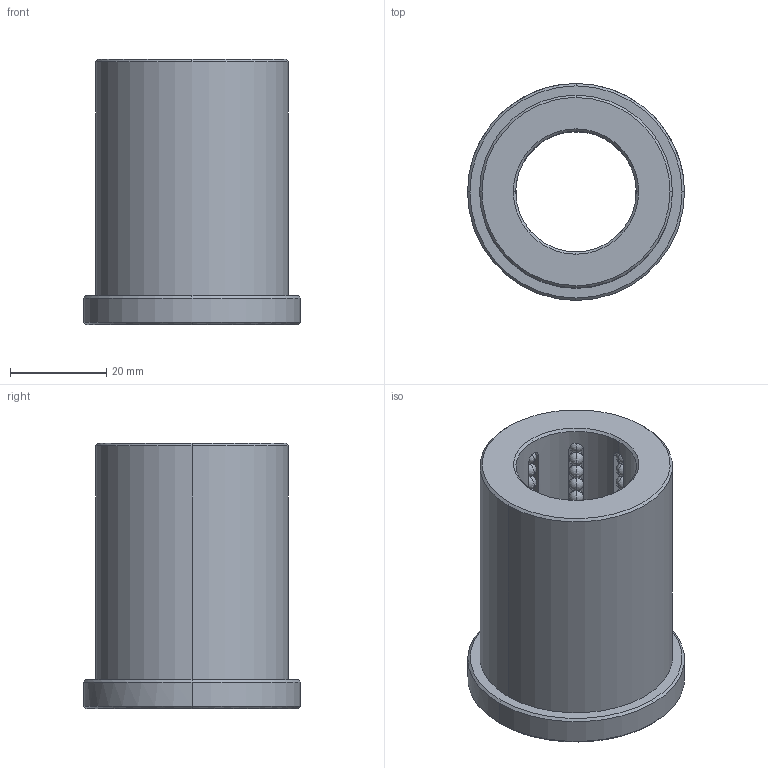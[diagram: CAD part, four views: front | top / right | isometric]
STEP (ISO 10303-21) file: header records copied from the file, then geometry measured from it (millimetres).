
FILE_DESCRIPTION(('CATIA V5 STEP Exchange'),'2;1');
FILE_NAME('C:\Users\Raffaele\Desktop\3D BOLEX\3D FILES CF BOLEX\1-BUSH REF 801\B8012555.stp','2019-06-19T13:46:53+00:00',('none'),('none'),'CATIA Version 5 Release 20 GA (IN-10)','CATIA V5 STEP AP203','none');
FILE_SCHEMA(('CONFIG_CONTROL_DESIGN'));
Length unit declared in the file: millimetre
Products named in the file (1): B8012555
Bounding box: 45 x 45 x 55 mm (x, y, z)
Volume: 42386.3 mm3; surface area: 19142.9 mm2
Topology: 121 solids, 121 shells, 549 faces, 1610 edges, 350 vertices
Faces by surface type: sphere 480, plane 27, cylinder 22, cone 20
Entity records: 10274 total; most frequent: CARTESIAN_POINT 1952, DIRECTION 1709, ORIENTED_EDGE 1300, AXIS2_PLACEMENT_3D 1069, EDGE_CURVE 650, EDGE_LOOP 558, ADVANCED_FACE 549, FACE_OUTER_BOUND 549
